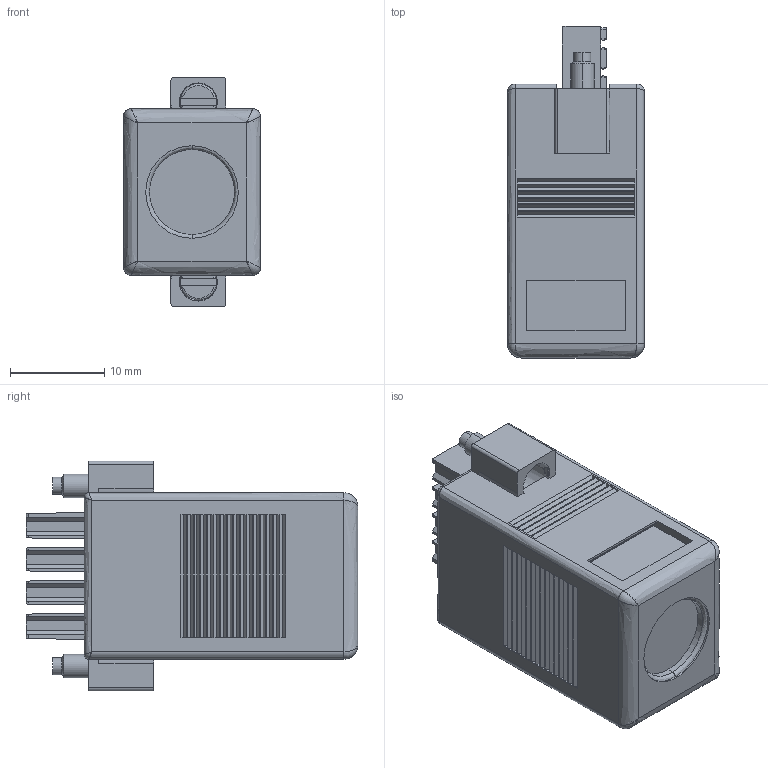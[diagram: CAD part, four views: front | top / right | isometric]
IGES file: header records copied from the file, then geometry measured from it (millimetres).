
Start section:  PTC IGES file: conn_cont_4_pos_mini_cmbcn_tb.igs
Global section: file name: conn_cont_4_pos_mini_cmbcn_tb.igs; native system: Pro/ENGINEER by Parametric Technology Corporation; preprocessor: 2006080; author: chrisj; organization: Unknown; date: 070125.170123; units: inch
Bounding box: 14.5 x 35.15 x 24.3 mm (x, y, z)
Surface area: 4402.1 mm2 (no closed solid volume)
Topology: 0 solids, 0 shells, 760 faces, 3928 edges, 3920 vertices
Faces by surface type: bspline 506, revolution 254
